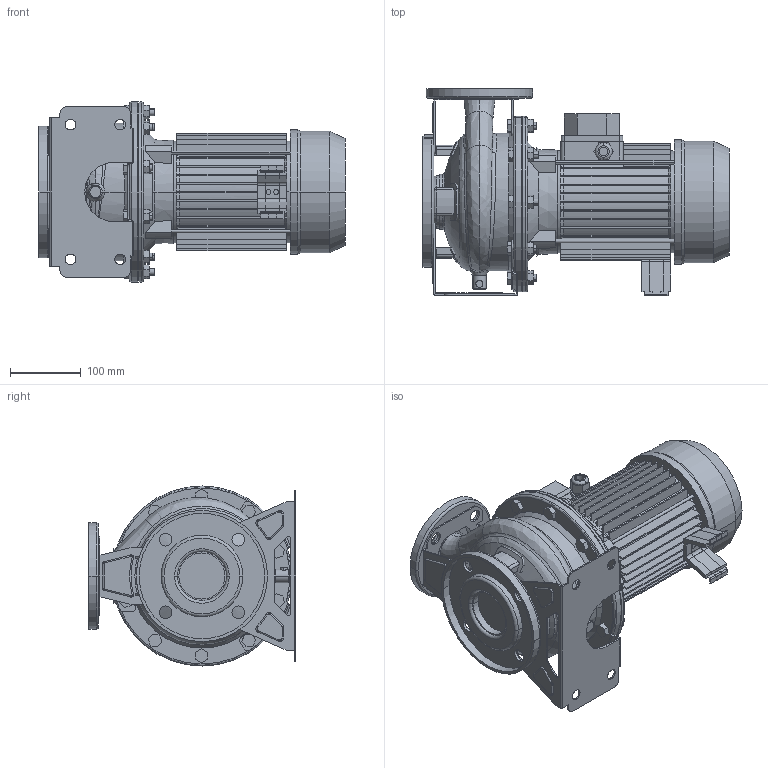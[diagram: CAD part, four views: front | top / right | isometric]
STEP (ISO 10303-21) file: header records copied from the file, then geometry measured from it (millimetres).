
FILE_DESCRIPTION((''),'2;1');
FILE_NAME('3M_40-160_3_ASM','2009-06-11T',('pigreco'),('"Ebara Pumps Europe +39.444.706811"'),'PRO/ENGINEER BY PARAMETRIC TECHNOLOGY CORPORATION, 2008310','PRO/ENGINEER BY PARAMETRIC TECHNOLOGY CORPORATION, 2008310','');
FILE_SCHEMA(('AUTOMOTIVE_DESIGN { 1 0 10303 214 1 1 1 1 }'));
Length unit declared in the file: millimetre
Products named in the file (11): CORPO_40-160; ASP_40-160; FLANGIA_DIN_65; MAND_40-160; FLANGIA_DIN_40; BASE_3M_40-160; CORPO_SALDATO_40-160_ASM; SUPPORTO_3M_190_90; MEC_90L_3; SOSTEGNO_72004; 3M_40-160_3_ASM
Assembly tree (11 placements, depth 3):
  3M_40-160_3_ASM
    CORPO_SALDATO_40-160_ASM
      CORPO_40-160
      ASP_40-160
      FLANGIA_DIN_65
      MAND_40-160
      FLANGIA_DIN_40
      BASE_3M_40-160
    SUPPORTO_3M_190_90
    MEC_90L_3
    SOSTEGNO_72004  x2
Bounding box: 432.5 x 292 x 254 mm (x, y, z)
Volume: 7589811.5 mm3; surface area: 1044015.5 mm2
Topology: 13 solids, 13 shells, 1082 faces, 2764 edges, 1765 vertices
Faces by surface type: plane 576, cylinder 312, cone 94, torus 60, bspline 34, sphere 6
Entity records: 35361 total; most frequent: CARTESIAN_POINT 9153, DIRECTION 5484, ORIENTED_EDGE 5360, EDGE_CURVE 2680, AXIS2_PLACEMENT_3D 2005, VERTEX_POINT 1709, VECTOR 1474, LINE 1474
